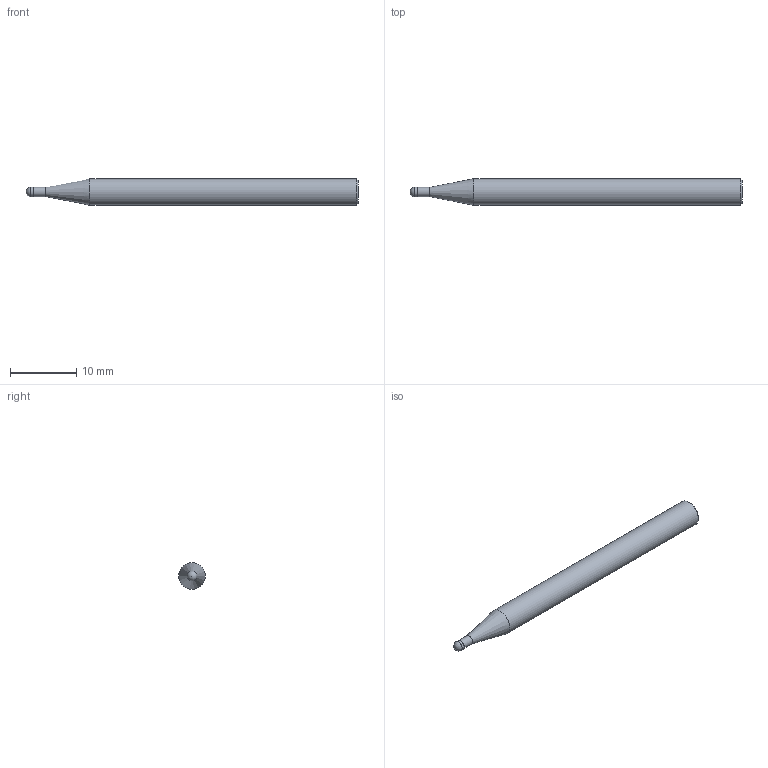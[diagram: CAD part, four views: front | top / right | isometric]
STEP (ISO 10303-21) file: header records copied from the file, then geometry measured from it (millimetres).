
FILE_DESCRIPTION(/* description */ (''),/* implementation_level */ '2;1');
FILE_NAME(/* name */ 'HSXB2015 0450.stp',/* time_stamp */ '2026-08-01T16:09:20+08:00',/* author */ (''),/* organization */ (''),/* preprocessor_version */ 'ST-DEVELOPER v16',/* originating_system */ 'SIEMENS PLM Software NX 10.0',/* authorisation */ '');
FILE_SCHEMA (('CONFIG_CONTROL_DESIGN'));
Length unit declared in the file: millimetre
Products named in the file (1): HSXB2015 0450_dxf
Bounding box: 50 x 4 x 4 mm (x, y, z)
Volume: 552.7 mm3; surface area: 592.9 mm2
Topology: 2 solids, 2 shells, 9 faces, 15 edges, 9 vertices
Faces by surface type: plane 3, cylinder 3, cone 2, sphere 1
Full cylindrical faces by diameter (mm): 1.42 x1, 1.5 x1, 4 x1
Entity records: 246 total; most frequent: DIRECTION 34, CARTESIAN_POINT 24, AXIS2_PLACEMENT_3D 17, EDGE_LOOP 14, ORIENTED_EDGE 14, FACE_BOUND 10, ADVANCED_FACE 9, PERSON_AND_ORGANIZATION 7
